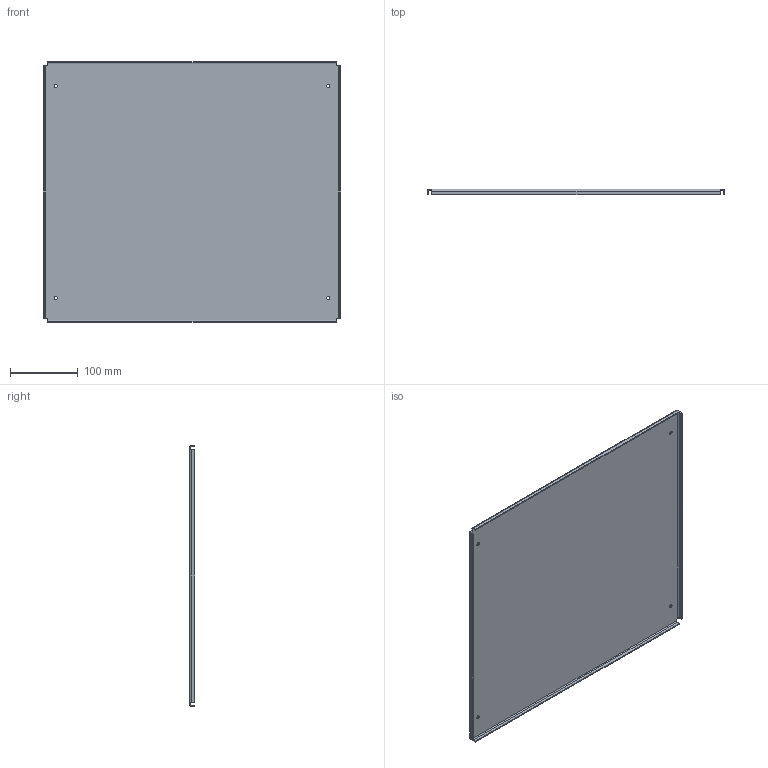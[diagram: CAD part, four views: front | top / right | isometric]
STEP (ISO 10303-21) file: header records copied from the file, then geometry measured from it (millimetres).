
FILE_DESCRIPTION (( 'STEP AP203' ), '1' );
FILE_NAME ('SANC-15.STEP', '2013-03-14T23:39:56', ( '' ), ( '' ), 'SwSTEP 2.0', 'SolidWorks 2013', '' );
FILE_SCHEMA (( 'CONFIG_CONTROL_DESIGN' ));
Length unit declared in the file: inch
Products named in the file (1): SANC-15
Bounding box: 437.64 x 7.62 x 384.05 mm (x, y, z)
Volume: 281285.7 mm3; surface area: 354371.1 mm2
Topology: 1 solids, 1 shells, 62 faces, 140 edges, 80 vertices
Faces by surface type: plane 38, cylinder 16, cone 8
Entity records: 1779 total; most frequent: DIRECTION 306, CARTESIAN_POINT 283, ORIENTED_EDGE 280, EDGE_CURVE 140, AXIS2_PLACEMENT_3D 103, VECTOR 100, LINE 100, VERTEX_POINT 80
